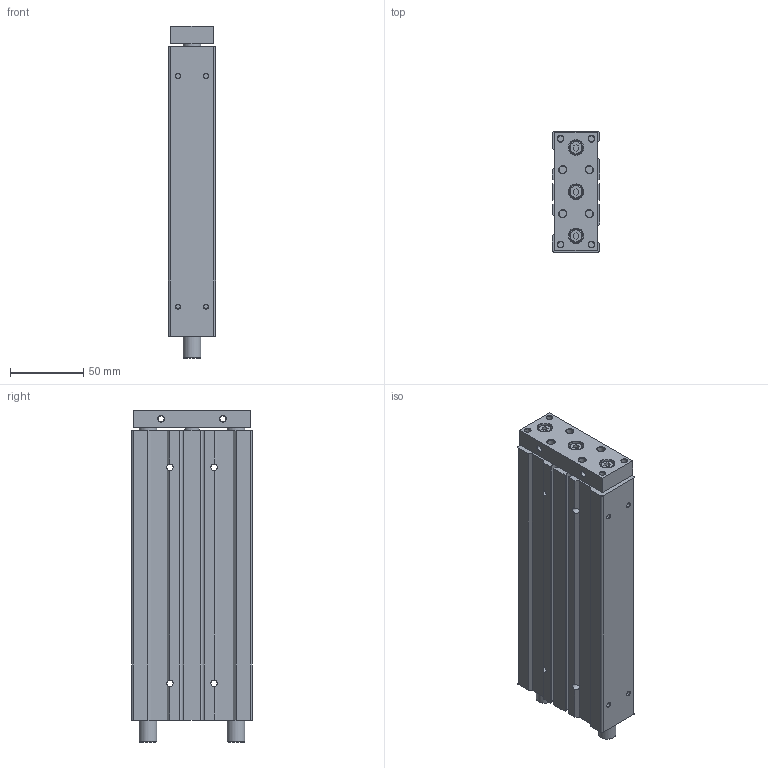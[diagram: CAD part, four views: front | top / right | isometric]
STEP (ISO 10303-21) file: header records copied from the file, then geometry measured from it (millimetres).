
FILE_DESCRIPTION((''),'2;1');
FILE_NAME('I:\3D電子目錄\氣缸\TB(U)\TB(U)20\TB(U)20\TB(U)20x150.stp','2007-08-06T08:21:34',('Administrator'),(''),'Autodesk Inventor 2008','Autodesk Inventor 2008','');
FILE_SCHEMA(('AUTOMOTIVE_DESIGN { 1 0 10303 214 1 1 1 1 }'));
Length unit declared in the file: millimetre
Products named in the file (1): TB(U)20X150
Bounding box: 32 x 82 x 225.9 mm (x, y, z)
Volume: 508056.1 mm3; surface area: 73261.9 mm2
Topology: 1 solids, 1 shells, 188 faces, 424 edges, 268 vertices
Faces by surface type: plane 90, cylinder 50, cone 37, bspline 8, torus 3
Full cylindrical faces by diameter (mm): 3 x4, 4 x6, 4.4 x4, 5 x10, 8 x4, 9 x3, 10 x4, 12 x4, 19 x2, 22 x1
Entity records: 4948 total; most frequent: CARTESIAN_POINT 875, DIRECTION 860, ORIENTED_EDGE 676, AXIS2_PLACEMENT_3D 341, EDGE_CURVE 338, EDGE_LOOP 336, VERTEX_POINT 268, FACE_OUTER_BOUND 188
